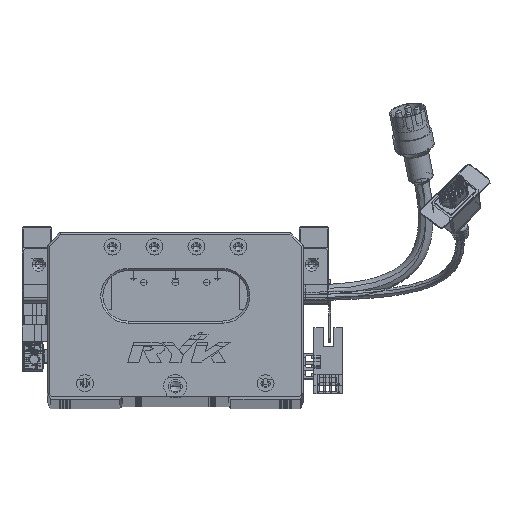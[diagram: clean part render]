
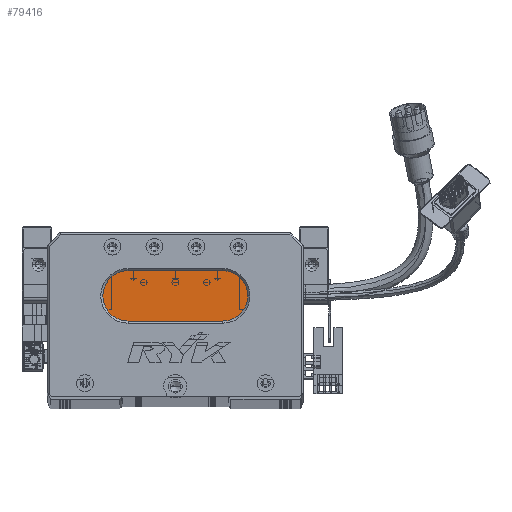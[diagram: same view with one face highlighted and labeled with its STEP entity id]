
A CAD part, top view. The second image highlights one B-rep face of the part: STEP entity #79416.
In plain terms, the highlighted planar face has unit normal (0, 0, 1) as drawn and (0, 0, -1) by its records, which use the part's own axes.
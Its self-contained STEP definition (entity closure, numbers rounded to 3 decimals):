
#2288 = DIRECTION ( 'NONE',  ( -1., 0., 0. ) ) ;
#3100 = EDGE_CURVE ( 'NONE', #67016, #82337, #99723, .T. ) ;
#3751 = LINE ( 'NONE', #21472, #104385 ) ;
#5299 = CIRCLE ( 'NONE', #40541, 12. ) ;
#8327 = CARTESIAN_POINT ( 'NONE',  ( 83.5, 60., 13. ) ) ;
#9676 = VECTOR ( 'NONE', #42144, 1000. ) ;
#11420 = VERTEX_POINT ( 'NONE', #114280 ) ;
#15596 = CARTESIAN_POINT ( 'NONE',  ( 83.5, 48., 13. ) ) ;
#19077 = AXIS2_PLACEMENT_3D ( 'NONE', #15596, #93174, #82155 ) ;
#21472 = CARTESIAN_POINT ( 'NONE',  ( 83.5, 36., 13. ) ) ;
#22976 = CARTESIAN_POINT ( 'NONE',  ( 83.5, 60., 13. ) ) ;
#28038 = LINE ( 'NONE', #22976, #9676 ) ;
#29423 = DIRECTION ( 'NONE',  ( 0., 0., -1. ) ) ;
#33727 = CARTESIAN_POINT ( 'NONE',  ( 38.5, 48., 13. ) ) ;
#34426 = PLANE ( 'NONE',  #19077 ) ;
#35855 = CARTESIAN_POINT ( 'NONE',  ( 83.5, 36., 13. ) ) ;
#38987 = DIRECTION ( 'NONE',  ( 0., 0., -1. ) ) ;
#40541 = AXIS2_PLACEMENT_3D ( 'NONE', #33727, #111700, #102276 ) ;
#42144 = DIRECTION ( 'NONE',  ( 1., 0., 0. ) ) ;
#48778 = VERTEX_POINT ( 'NONE', #111322 ) ;
#51401 = ORIENTED_EDGE ( 'NONE', *, *, #104896, .T. ) ;
#52298 = FACE_OUTER_BOUND ( 'NONE', #99078, .T. ) ;
#59340 = CIRCLE ( 'NONE', #107091, 12. ) ;
#61762 = VERTEX_POINT ( 'NONE', #63939 ) ;
#63939 = CARTESIAN_POINT ( 'NONE',  ( 38.5, 36., 13. ) ) ;
#67016 = VERTEX_POINT ( 'NONE', #8327 ) ;
#67682 = ORIENTED_EDGE ( 'NONE', *, *, #72421, .T. ) ;
#70292 = CARTESIAN_POINT ( 'NONE',  ( 83.5, 48., 13. ) ) ;
#72421 = EDGE_CURVE ( 'NONE', #82337, #61762, #3751, .T. ) ;
#79416 = ADVANCED_FACE ( 'NONE', ( #52298 ), #34426, .T. ) ;
#82155 = DIRECTION ( 'NONE',  ( -1., 0., 0. ) ) ;
#82337 = VERTEX_POINT ( 'NONE', #35855 ) ;
#93174 = DIRECTION ( 'NONE',  ( 0., 0., -1. ) ) ;
#96946 = CARTESIAN_POINT ( 'NONE',  ( 38.5, 48., 13. ) ) ;
#97540 = DIRECTION ( 'NONE',  ( -1., 0., 0. ) ) ;
#99078 = EDGE_LOOP ( 'NONE', ( #124770, #67682, #51401, #125369, #100581 ) ) ;
#99723 = CIRCLE ( 'NONE', #102194, 12. ) ;
#100581 = ORIENTED_EDGE ( 'NONE', *, *, #101106, .T. ) ;
#101106 = EDGE_CURVE ( 'NONE', #11420, #67016, #28038, .T. ) ;
#102194 = AXIS2_PLACEMENT_3D ( 'NONE', #70292, #29423, #97540 ) ;
#102276 = DIRECTION ( 'NONE',  ( -1., 0., 0. ) ) ;
#104385 = VECTOR ( 'NONE', #2288, 1000. ) ;
#104896 = EDGE_CURVE ( 'NONE', #61762, #48778, #5299, .T. ) ;
#107091 = AXIS2_PLACEMENT_3D ( 'NONE', #96946, #38987, #116199 ) ;
#111322 = CARTESIAN_POINT ( 'NONE',  ( 26.5, 48., 13. ) ) ;
#111700 = DIRECTION ( 'NONE',  ( 0., 0., -1. ) ) ;
#114280 = CARTESIAN_POINT ( 'NONE',  ( 38.5, 60., 13. ) ) ;
#116199 = DIRECTION ( 'NONE',  ( -1., 0., 0. ) ) ;
#123583 = EDGE_CURVE ( 'NONE', #48778, #11420, #59340, .T. ) ;
#124770 = ORIENTED_EDGE ( 'NONE', *, *, #3100, .T. ) ;
#125369 = ORIENTED_EDGE ( 'NONE', *, *, #123583, .T. ) ;
